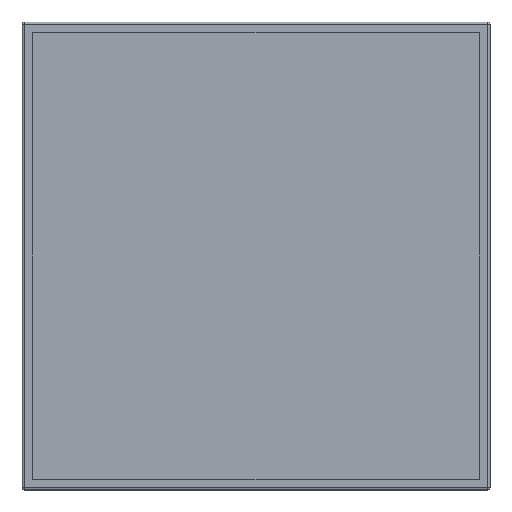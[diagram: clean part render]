
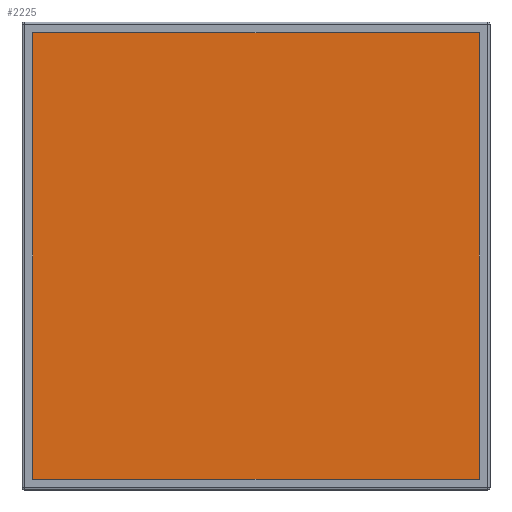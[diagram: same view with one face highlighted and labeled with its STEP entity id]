
A CAD part, front view. The second image highlights one B-rep face of the part: STEP entity #2225.
In plain terms, the highlighted planar face has unit normal (0, -1, 0).
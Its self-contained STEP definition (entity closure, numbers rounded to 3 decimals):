
#78=PLANE('',#2456);
#156=FACE_OUTER_BOUND('',#295,.T.);
#295=EDGE_LOOP('',(#1629,#1630,#1631,#1632,#1633,#1634,#1635,#1636,#1637,
#1638,#1639,#1640));
#473=LINE('',#3570,#684);
#474=LINE('',#3572,#685);
#475=LINE('',#3574,#686);
#476=LINE('',#3576,#687);
#477=LINE('',#3578,#688);
#478=LINE('',#3580,#689);
#479=LINE('',#3582,#690);
#480=LINE('',#3584,#691);
#481=LINE('',#3586,#692);
#482=LINE('',#3588,#693);
#483=LINE('',#3590,#694);
#484=LINE('',#3591,#695);
#684=VECTOR('',#2843,10.);
#685=VECTOR('',#2844,10.);
#686=VECTOR('',#2845,10.);
#687=VECTOR('',#2846,10.);
#688=VECTOR('',#2847,10.);
#689=VECTOR('',#2848,10.);
#690=VECTOR('',#2849,10.);
#691=VECTOR('',#2850,10.);
#692=VECTOR('',#2851,10.);
#693=VECTOR('',#2852,10.);
#694=VECTOR('',#2853,10.);
#695=VECTOR('',#2854,10.);
#1009=VERTEX_POINT('',#3568);
#1010=VERTEX_POINT('',#3569);
#1011=VERTEX_POINT('',#3571);
#1012=VERTEX_POINT('',#3573);
#1013=VERTEX_POINT('',#3575);
#1014=VERTEX_POINT('',#3577);
#1015=VERTEX_POINT('',#3579);
#1016=VERTEX_POINT('',#3581);
#1017=VERTEX_POINT('',#3583);
#1018=VERTEX_POINT('',#3585);
#1019=VERTEX_POINT('',#3587);
#1020=VERTEX_POINT('',#3589);
#1235=EDGE_CURVE('',#1009,#1010,#473,.T.);
#1236=EDGE_CURVE('',#1011,#1010,#474,.T.);
#1237=EDGE_CURVE('',#1011,#1012,#475,.T.);
#1238=EDGE_CURVE('',#1012,#1013,#476,.T.);
#1239=EDGE_CURVE('',#1013,#1014,#477,.T.);
#1240=EDGE_CURVE('',#1015,#1014,#478,.T.);
#1241=EDGE_CURVE('',#1015,#1016,#479,.T.);
#1242=EDGE_CURVE('',#1017,#1016,#480,.T.);
#1243=EDGE_CURVE('',#1017,#1018,#481,.T.);
#1244=EDGE_CURVE('',#1018,#1019,#482,.T.);
#1245=EDGE_CURVE('',#1019,#1020,#483,.T.);
#1246=EDGE_CURVE('',#1009,#1020,#484,.T.);
#1629=ORIENTED_EDGE('',*,*,#1235,.T.);
#1630=ORIENTED_EDGE('',*,*,#1236,.F.);
#1631=ORIENTED_EDGE('',*,*,#1237,.T.);
#1632=ORIENTED_EDGE('',*,*,#1238,.T.);
#1633=ORIENTED_EDGE('',*,*,#1239,.T.);
#1634=ORIENTED_EDGE('',*,*,#1240,.F.);
#1635=ORIENTED_EDGE('',*,*,#1241,.T.);
#1636=ORIENTED_EDGE('',*,*,#1242,.F.);
#1637=ORIENTED_EDGE('',*,*,#1243,.T.);
#1638=ORIENTED_EDGE('',*,*,#1244,.T.);
#1639=ORIENTED_EDGE('',*,*,#1245,.T.);
#1640=ORIENTED_EDGE('',*,*,#1246,.F.);
#2225=ADVANCED_FACE('',(#156),#78,.F.);
#2456=AXIS2_PLACEMENT_3D('',#3567,#2841,#2842);
#2841=DIRECTION('center_axis',(0.,1.,0.));
#2842=DIRECTION('ref_axis',(0.,0.,1.));
#2843=DIRECTION('',(0.,0.,1.));
#2844=DIRECTION('',(1.,0.,0.));
#2845=DIRECTION('',(0.,0.,1.));
#2846=DIRECTION('',(-1.,0.,0.));
#2847=DIRECTION('',(0.,0.,-1.));
#2848=DIRECTION('',(1.,0.,0.));
#2849=DIRECTION('',(0.,0.,-1.));
#2850=DIRECTION('',(-1.,0.,0.));
#2851=DIRECTION('',(0.,0.,-1.));
#2852=DIRECTION('',(1.,0.,0.));
#2853=DIRECTION('',(0.,0.,1.));
#2854=DIRECTION('',(-1.,0.,0.));
#3567=CARTESIAN_POINT('Origin',(0.,129.5,0.));
#3568=CARTESIAN_POINT('',(216.,129.5,-13.5));
#3569=CARTESIAN_POINT('',(216.,129.5,13.5));
#3570=CARTESIAN_POINT('',(216.,129.5,108.75));
#3571=CARTESIAN_POINT('',(215.5,129.5,13.5));
#3572=CARTESIAN_POINT('',(-108.75,129.5,13.5));
#3573=CARTESIAN_POINT('',(215.5,129.5,215.5));
#3574=CARTESIAN_POINT('',(215.5,129.5,108.75));
#3575=CARTESIAN_POINT('',(-215.5,129.5,215.5));
#3576=CARTESIAN_POINT('',(-108.75,129.5,215.5));
#3577=CARTESIAN_POINT('',(-215.5,129.5,13.5));
#3578=CARTESIAN_POINT('',(-215.5,129.5,-108.75));
#3579=CARTESIAN_POINT('',(-216.,129.5,13.5));
#3580=CARTESIAN_POINT('',(-108.75,129.5,13.5));
#3581=CARTESIAN_POINT('',(-216.,129.5,-13.5));
#3582=CARTESIAN_POINT('',(-216.,129.5,-108.75));
#3583=CARTESIAN_POINT('',(-215.5,129.5,-13.5));
#3584=CARTESIAN_POINT('',(108.75,129.5,-13.5));
#3585=CARTESIAN_POINT('',(-215.5,129.5,-215.5));
#3586=CARTESIAN_POINT('',(-215.5,129.5,-108.75));
#3587=CARTESIAN_POINT('',(215.5,129.5,-215.5));
#3588=CARTESIAN_POINT('',(108.75,129.5,-215.5));
#3589=CARTESIAN_POINT('',(215.5,129.5,-13.5));
#3590=CARTESIAN_POINT('',(215.5,129.5,108.75));
#3591=CARTESIAN_POINT('',(108.75,129.5,-13.5));
